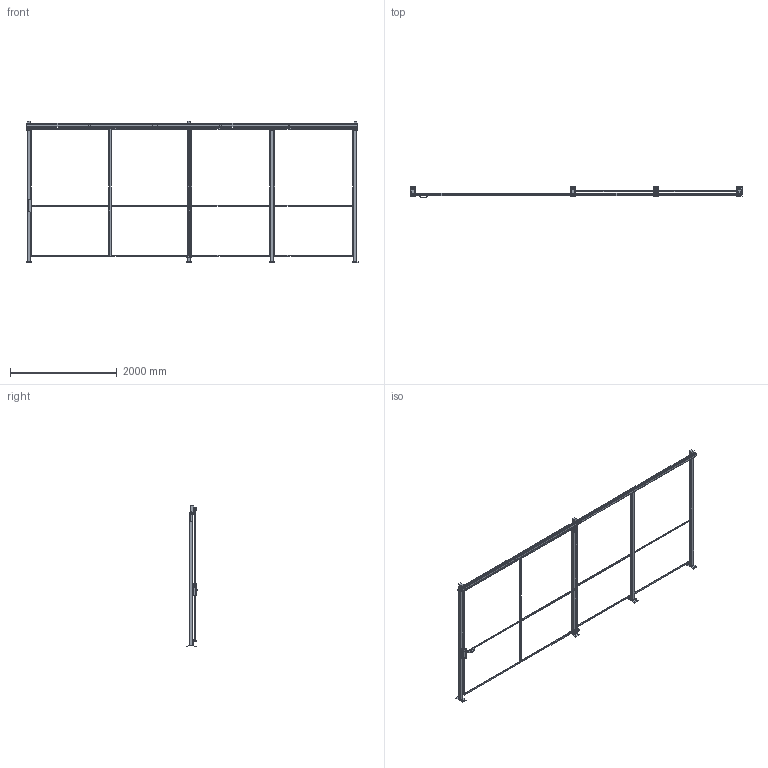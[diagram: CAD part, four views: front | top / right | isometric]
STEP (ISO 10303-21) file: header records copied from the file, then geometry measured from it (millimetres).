
FILE_DESCRIPTION(/* description */ (''),/* implementation_level */ '2;1');
FILE_NAME(/* name */ 'C:\SafeGuarding\ELABORATI\VZOR§POSUVNE_2650x2520_2025-02-13-08-20-12.stp',/* time_stamp */ '2025-02-13T08:20:14+01:00',/* author */ ('admin'),/* organization */ (''),/* preprocessor_version */ 'ST-DEVELOPER v18.1',/* originating_system */ 'AutoCAD Mechanical',/* authorisation */ '');
FILE_SCHEMA (('AUTOMOTIVE_DESIGN { 1 0 10303 214 3 1 1 }'));
Length unit declared in the file: millimetre
Products named in the file (4): Product; VFPA.REPE2015002400; DATI_PORTA; P_VFMA.ME60SDU.2520
Assembly tree (9 placements, depth 2):
  Product
    P_VFMA.ME60SDU.2520  x4
    VFPA.REPE2015002400  x4
    DATI_PORTA
Bounding box: 6230 x 219.95 x 2654 mm (x, y, z)
Volume: 62422352 mm3; surface area: 8764962.5 mm2
Topology: 35 solids, 46 shells, 637 faces, 2302 edges, 2324 vertices
Faces by surface type: plane 587, cylinder 48, sphere 2
Full cylindrical faces by diameter (mm): 11 x16, 12 x2, 15 x4, 40 x4
Entity records: 15174 total; most frequent: CARTESIAN_POINT 3142, DIRECTION 2301, ORIENTED_EDGE 2286, EDGE_CURVE 1192, LINE 1151, VECTOR 1151, VERTEX_POINT 836, AXIS2_PLACEMENT_3D 575
